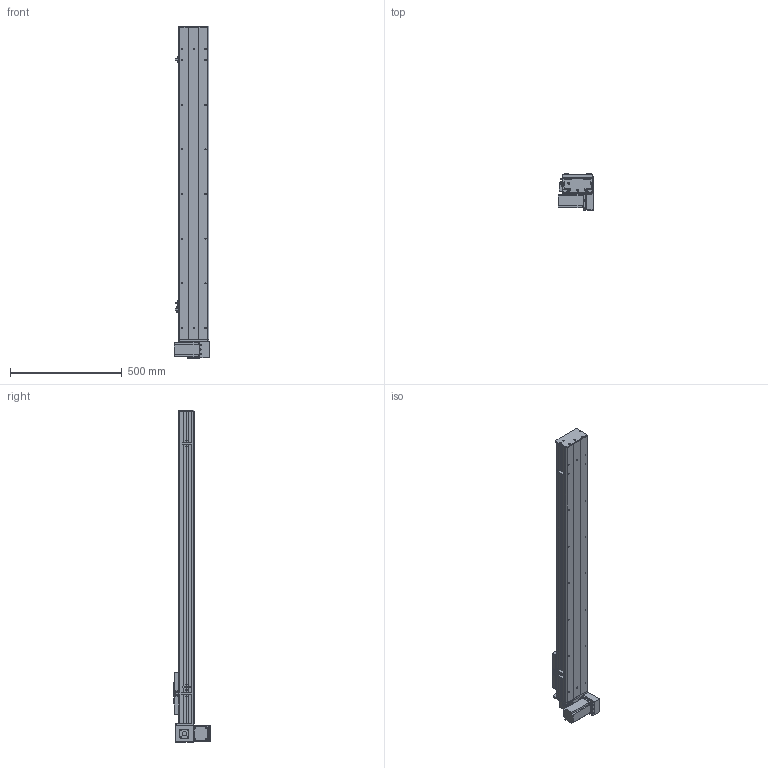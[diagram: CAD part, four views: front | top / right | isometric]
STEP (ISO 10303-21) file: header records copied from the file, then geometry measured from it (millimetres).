
FILE_DESCRIPTION (( 'STEP AP203' ), '1' );
FILE_NAME ('Y135CB-D90-S1100-BM-P400W.STEP', '2020-02-19T01:21:53', ( '微软用户' ), ( '微软中国' ), 'SwSTEP 2.0', 'SolidWorks 2017', '' );
FILE_SCHEMA (( 'CONFIG_CONTROL_DESIGN' ));
Length unit declared in the file: millimetre
Products named in the file (18): 0B-源倛裔啣; C-雄赽釱--; 0B-萇儂楊擘啣; Y10B--々湍喘謫眊--666; san松下电机400不带刹车----; 00B-俋欶BM--; 5CB --掛极耜裔啣-; Y10B-耜蚾蟀諉啣----; C-詩湍揤踡え-陔; Y135CB-耜裔; Y135CB-D90-S1100-BM-P400W; 135CB--詩湍-CE; 135CB---遴掛极.-; Y100-135俋离換覜ん--; 35CB---喘謫眊楊擘啣; Y135C-陔俋离換覜結え-; 0B-埴倛裔啣; 5C--俋欶
Assembly tree (21 placements, depth 2):
  Y135CB-D90-S1100-BM-P400W
    Y135CB-耜裔
    135CB---遴掛极.-
    35CB---喘謫眊楊擘啣
    0B-埴倛裔啣
    0B-源倛裔啣
    0B-萇儂楊擘啣
    san松下电机400不带刹车----
    5CB --掛极耜裔啣-  x2
    C-詩湍揤踡え-陔  x2
    135CB--詩湍-CE
    Y100-135俋离換覜ん--  x3
    Y135C-陔俋离換覜結え-
    5C--俋欶
    C-雄赽釱--
    Y10B--々湍喘謫眊--666
    00B-俋欶BM--
    Y10B-耜蚾蟀諉啣----
Bounding box: 157 x 163.3 x 1488 mm (x, y, z)
Volume: 4646029.9 mm3; surface area: 1820524 mm2
Topology: 21 solids, 21 shells, 949 faces, 2545 edges, 1686 vertices
Faces by surface type: cylinder 477, plane 456, cone 16
Entity records: 29551 total; most frequent: DIRECTION 4909, CARTESIAN_POINT 4856, ORIENTED_EDGE 4566, EDGE_CURVE 2283, AXIS2_PLACEMENT_3D 1791, VERTEX_POINT 1514, LINE 1327, VECTOR 1327
